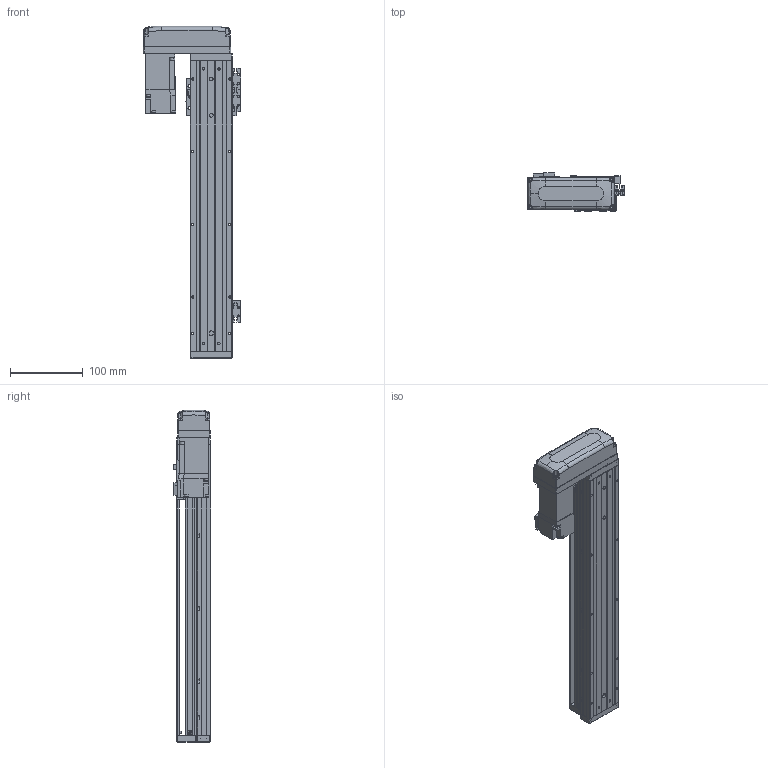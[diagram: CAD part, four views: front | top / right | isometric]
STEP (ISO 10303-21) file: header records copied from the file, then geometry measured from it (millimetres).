
FILE_DESCRIPTION (( 'STEP AP203' ), '1' );
FILE_NAME ('KTHA50-300-BR-M10-C4L.step', '2022-03-19T07:15:08', ( '微软用户' ), ( '微软中国' ), 'SwSTEP 2.0', 'SolidWorks 2020', '' );
FILE_SCHEMA (( 'CONFIG_CONTROL_DESIGN' ));
Length unit declared in the file: millimetre
Products named in the file (18): GBT77-2000 M3×3; HG-KR13（三菱）; KTHA50-001_400; GBT 70.1-M3℅6; CTHA50-015-2_CTHA60-015-2; KTHA50-002; CTHA60-017; CTHA60-033; KTHA50-004; GBT 70.1-M4×12; GBT 70.1-M3×15; KTHA50-005; CTHA60-016; KTHA50-300-BR-M10-C4L; GB¨uT 70.2-M3¡Á6_M3¡Á6; CTHA60-021; EE_SX911P_R; GBT 70.3-M3℅6
Assembly tree (53 placements, depth 2):
  KTHA50-300-BR-M10-C4L
    KTHA50-001_400
    KTHA50-002
    KTHA50-004
    KTHA50-005
    GB¨uT 70.2-M3¡Á6_M3¡Á6  x6
    EE_SX911P_R  x3
    GBT77-2000 M3×3  x6
    GBT 70.1-M3℅6  x6
    CTHA60-017  x3
    GBT 70.1-M4×12  x10
    CTHA60-016  x2
    CTHA60-021  x2
    GBT 70.3-M3℅6  x4
    HG-KR13（三菱）
    CTHA50-015-2_CTHA60-015-2
    CTHA60-033
    GBT 70.1-M3×15  x4
Bounding box: 133.82 x 52.3 x 457 mm (x, y, z)
Volume: 1027924.3 mm3; surface area: 253062.7 mm2
Topology: 56 solids, 56 shells, 2243 faces, 5295 edges, 3244 vertices
Faces by surface type: plane 1252, cylinder 544, cone 305, torus 100, bspline 26, sphere 16
Entity records: 37589 total; most frequent: CARTESIAN_POINT 7122, DIRECTION 5855, ORIENTED_EDGE 5602, EDGE_CURVE 2801, AXIS2_PLACEMENT_3D 1993, LINE 1869, VECTOR 1869, VERTEX_POINT 1758
